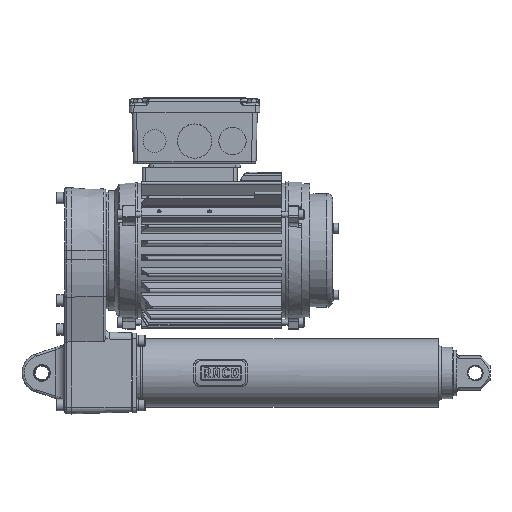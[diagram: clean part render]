
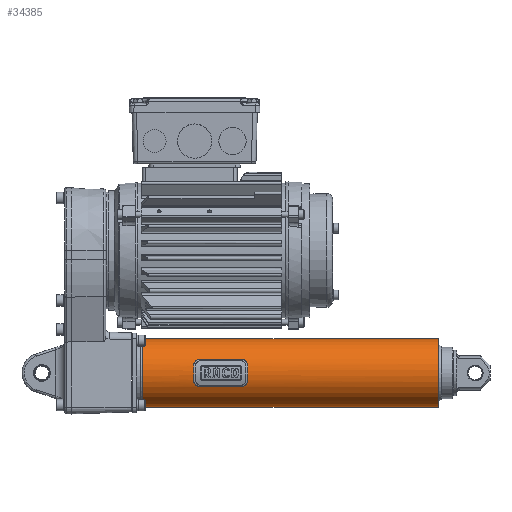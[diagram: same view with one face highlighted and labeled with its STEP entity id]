
A CAD part, left-side view. The second image highlights one B-rep face of the part: STEP entity #34385.
In plain terms, the highlighted cylindrical face has radius 30 mm (diameter 60 mm), a partial arc.
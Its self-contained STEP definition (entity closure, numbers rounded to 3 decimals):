
#415=CYLINDRICAL_SURFACE('',#36249,30.);
#909=B_SPLINE_CURVE_WITH_KNOTS('',3,(#48428,#48429,#48430,#48431,#48432,
#48433),.UNSPECIFIED.,.F.,.F.,(4,1,1,4),(0.,0.002,0.005,
0.01),.UNSPECIFIED.);
#910=B_SPLINE_CURVE_WITH_KNOTS('',3,(#48435,#48436,#48437,#48438),
 .UNSPECIFIED.,.F.,.F.,(4,4),(0.,0.035),
 .UNSPECIFIED.);
#911=B_SPLINE_CURVE_WITH_KNOTS('',3,(#48440,#48441,#48442,#48443,#48444),
 .UNSPECIFIED.,.F.,.F.,(4,1,4),(0.,0.005,0.01),
 .UNSPECIFIED.);
#912=B_SPLINE_CURVE_WITH_KNOTS('',3,(#48445,#48446,#48447,#48448,#48449,
#48450),.UNSPECIFIED.,.F.,.F.,(4,1,1,4),(0.,0.002,
0.005,0.01),.UNSPECIFIED.);
#913=B_SPLINE_CURVE_WITH_KNOTS('',3,(#48452,#48453,#48454,#48455),
 .UNSPECIFIED.,.F.,.F.,(4,4),(0.,0.035),
 .UNSPECIFIED.);
#914=B_SPLINE_CURVE_WITH_KNOTS('',3,(#48457,#48458,#48459,#48460,#48461),
 .UNSPECIFIED.,.F.,.F.,(4,1,4),(0.,0.005,0.01),
 .UNSPECIFIED.);
#1449=CIRCLE('',#36250,30.);
#1450=CIRCLE('',#36251,30.);
#2624=ELLIPSE('',#36234,30.,30.);
#2626=ELLIPSE('',#36237,30.,30.);
#4266=ORIENTED_EDGE('',*,*,#10570,.T.);
#4267=ORIENTED_EDGE('',*,*,#10592,.T.);
#4268=ORIENTED_EDGE('',*,*,#10593,.T.);
#4269=ORIENTED_EDGE('',*,*,#10594,.T.);
#4270=ORIENTED_EDGE('',*,*,#10574,.T.);
#4271=ORIENTED_EDGE('',*,*,#10595,.T.);
#4272=ORIENTED_EDGE('',*,*,#10596,.T.);
#4273=ORIENTED_EDGE('',*,*,#10597,.T.);
#4274=ORIENTED_EDGE('',*,*,#10598,.F.);
#4275=ORIENTED_EDGE('',*,*,#10599,.T.);
#4276=ORIENTED_EDGE('',*,*,#10600,.T.);
#4277=ORIENTED_EDGE('',*,*,#10601,.T.);
#10570=EDGE_CURVE('',#13867,#13866,#2624,.T.);
#10574=EDGE_CURVE('',#13871,#13870,#2626,.T.);
#10592=EDGE_CURVE('',#13866,#13884,#909,.T.);
#10593=EDGE_CURVE('',#13884,#13885,#910,.T.);
#10594=EDGE_CURVE('',#13885,#13871,#911,.T.);
#10595=EDGE_CURVE('',#13870,#13886,#912,.T.);
#10596=EDGE_CURVE('',#13886,#13887,#913,.T.);
#10597=EDGE_CURVE('',#13887,#13867,#914,.T.);
#10598=EDGE_CURVE('',#13888,#13889,#1449,.T.);
#10599=EDGE_CURVE('',#13888,#13890,#16144,.T.);
#10600=EDGE_CURVE('',#13890,#13891,#1450,.T.);
#10601=EDGE_CURVE('',#13891,#13889,#16145,.F.);
#13866=VERTEX_POINT('',#48381);
#13867=VERTEX_POINT('',#48383);
#13870=VERTEX_POINT('',#48390);
#13871=VERTEX_POINT('',#48392);
#13884=VERTEX_POINT('',#48434);
#13885=VERTEX_POINT('',#48439);
#13886=VERTEX_POINT('',#48451);
#13887=VERTEX_POINT('',#48456);
#13888=VERTEX_POINT('',#48463);
#13889=VERTEX_POINT('',#48464);
#13890=VERTEX_POINT('',#48466);
#13891=VERTEX_POINT('',#48468);
#16144=LINE('',#48465,#17868);
#16145=LINE('',#48469,#17869);
#17868=VECTOR('',#40324,1000.);
#17869=VECTOR('',#40327,1000.);
#19528=EDGE_LOOP('',(#4266,#4267,#4268,#4269,#4270,#4271,#4272,#4273));
#19529=EDGE_LOOP('',(#4274,#4275,#4276,#4277));
#21425=FACE_BOUND('',#19528,.T.);
#21426=FACE_BOUND('',#19529,.T.);
#34385=ADVANCED_FACE('',(#21425,#21426),#415,.T.);
#36234=AXIS2_PLACEMENT_3D('',#48382,#40277,#40278);
#36237=AXIS2_PLACEMENT_3D('',#48391,#40285,#40286);
#36249=AXIS2_PLACEMENT_3D('',#48427,#40320,#40321);
#36250=AXIS2_PLACEMENT_3D('',#48462,#40322,#40323);
#36251=AXIS2_PLACEMENT_3D('',#48467,#40325,#40326);
#40277=DIRECTION('',(0.,1.,0.));
#40278=DIRECTION('',(0.,0.,1.));
#40285=DIRECTION('',(0.,-1.,0.));
#40286=DIRECTION('',(0.,0.,1.));
#40320=DIRECTION('',(0.,-1.,0.));
#40321=DIRECTION('',(0.,0.,-1.));
#40322=DIRECTION('',(0.,1.,0.));
#40323=DIRECTION('',(0.,0.,1.));
#40324=DIRECTION('',(0.,-1.,0.));
#40325=DIRECTION('',(0.,1.,0.));
#40326=DIRECTION('',(1.,0.,0.));
#40327=DIRECTION('',(0.,-1.,0.));
#48381=CARTESIAN_POINT('',(-29.366,214.603,6.133));
#48382=CARTESIAN_POINT('',(0.,214.604,0.));
#48383=CARTESIAN_POINT('',(-29.368,214.604,-6.126));
#48390=CARTESIAN_POINT('',(-29.367,167.102,-6.129));
#48391=CARTESIAN_POINT('',(0.,167.101,0.));
#48392=CARTESIAN_POINT('',(-29.367,167.101,6.129));
#48427=CARTESIAN_POINT('',(0.,275.,0.));
#48428=CARTESIAN_POINT('',(-29.366,214.603,6.133));
#48429=CARTESIAN_POINT('',(-29.197,214.603,6.945));
#48430=CARTESIAN_POINT('',(-28.795,214.282,8.525));
#48431=CARTESIAN_POINT('',(-27.875,212.515,11.216));
#48432=CARTESIAN_POINT('',(-27.38,210.134,12.262));
#48433=CARTESIAN_POINT('',(-27.38,208.473,12.262));
#48434=CARTESIAN_POINT('',(-27.38,208.473,12.262));
#48435=CARTESIAN_POINT('',(-27.38,208.473,12.262));
#48436=CARTESIAN_POINT('',(-27.38,196.726,12.261));
#48437=CARTESIAN_POINT('',(-27.381,184.978,12.26));
#48438=CARTESIAN_POINT('',(-27.381,173.23,12.259));
#48439=CARTESIAN_POINT('',(-27.381,173.23,12.259));
#48440=CARTESIAN_POINT('',(-27.381,173.23,12.259));
#48441=CARTESIAN_POINT('',(-27.381,171.571,12.259));
#48442=CARTESIAN_POINT('',(-28.05,168.395,10.861));
#48443=CARTESIAN_POINT('',(-29.029,167.101,7.751));
#48444=CARTESIAN_POINT('',(-29.367,167.101,6.129));
#48445=CARTESIAN_POINT('',(-29.367,167.102,-6.129));
#48446=CARTESIAN_POINT('',(-29.198,167.102,-6.941));
#48447=CARTESIAN_POINT('',(-28.796,167.423,-8.521));
#48448=CARTESIAN_POINT('',(-27.876,169.191,-11.212));
#48449=CARTESIAN_POINT('',(-27.381,171.571,-12.258));
#48450=CARTESIAN_POINT('',(-27.381,173.232,-12.258));
#48451=CARTESIAN_POINT('',(-27.381,173.232,-12.258));
#48452=CARTESIAN_POINT('',(-27.381,173.232,-12.258));
#48453=CARTESIAN_POINT('',(-27.382,184.979,-12.257));
#48454=CARTESIAN_POINT('',(-27.382,196.727,-12.256));
#48455=CARTESIAN_POINT('',(-27.382,208.475,-12.256));
#48456=CARTESIAN_POINT('',(-27.382,208.475,-12.256));
#48457=CARTESIAN_POINT('',(-27.382,208.475,-12.256));
#48458=CARTESIAN_POINT('',(-27.383,210.134,-12.255));
#48459=CARTESIAN_POINT('',(-28.051,213.31,-10.858));
#48460=CARTESIAN_POINT('',(-29.03,214.604,-7.748));
#48461=CARTESIAN_POINT('',(-29.368,214.604,-6.126));
#48462=CARTESIAN_POINT('',(0.,259.1,0.));
#48463=CARTESIAN_POINT('',(29.906,259.1,-2.375));
#48464=CARTESIAN_POINT('',(29.906,259.1,2.375));
#48465=CARTESIAN_POINT('',(29.906,275.,-2.375));
#48466=CARTESIAN_POINT('',(29.906,0.,-2.375));
#48467=CARTESIAN_POINT('',(0.,0.,0.));
#48468=CARTESIAN_POINT('',(29.906,0.,2.375));
#48469=CARTESIAN_POINT('',(29.906,275.,2.375));
